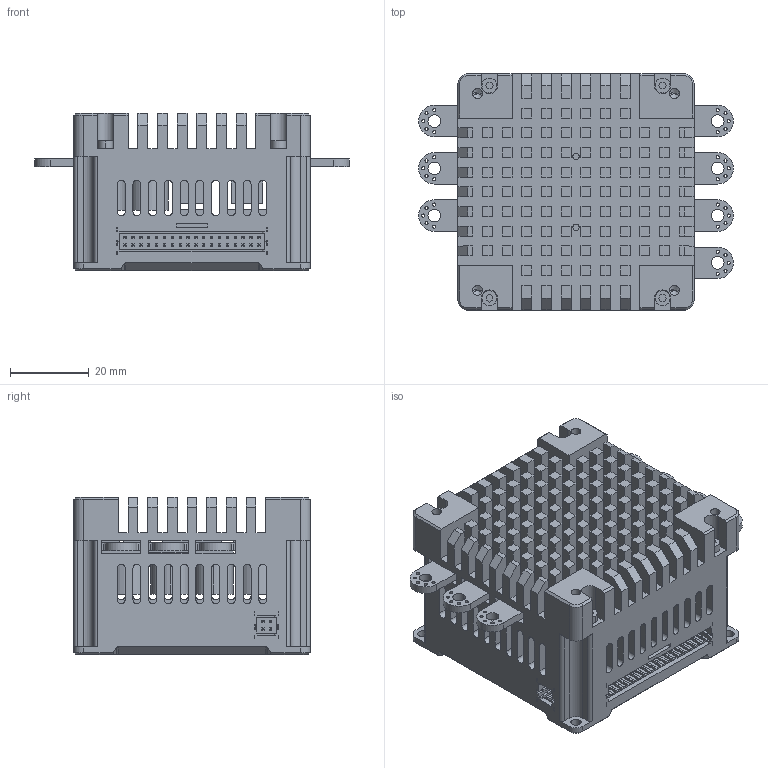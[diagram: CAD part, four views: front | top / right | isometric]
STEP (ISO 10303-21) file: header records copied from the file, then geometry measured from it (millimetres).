
FILE_DESCRIPTION((''),'2;1');
FILE_NAME('MOTHERING','2017-11-07T',('Baul'),(''),'PRO/ENGINEER BY PARAMETRIC TECHNOLOGY CORPORATION, 2009280','PRO/ENGINEER BY PARAMETRIC TECHNOLOGY CORPORATION, 2009280','');
FILE_SCHEMA(('CONFIG_CONTROL_DESIGN'));
Products named in the file (1): MOTHERING
Bounding box: 80 x 60 x 39.99 mm (x, y, z)
Volume: 59396.9 mm3; surface area: 63030.6 mm2
Topology: 1 solids, 13 shells, 3155 faces, 8300 edges, 5329 vertices
Faces by surface type: plane 2513, cylinder 594, cone 48
Entity records: 96201 total; most frequent: CARTESIAN_POINT 16832, ORIENTED_EDGE 16552, DIRECTION 15775, EDGE_CURVE 8276, VECTOR 7023, LINE 7023, VERTEX_POINT 5329, AXIS2_PLACEMENT_3D 4376
